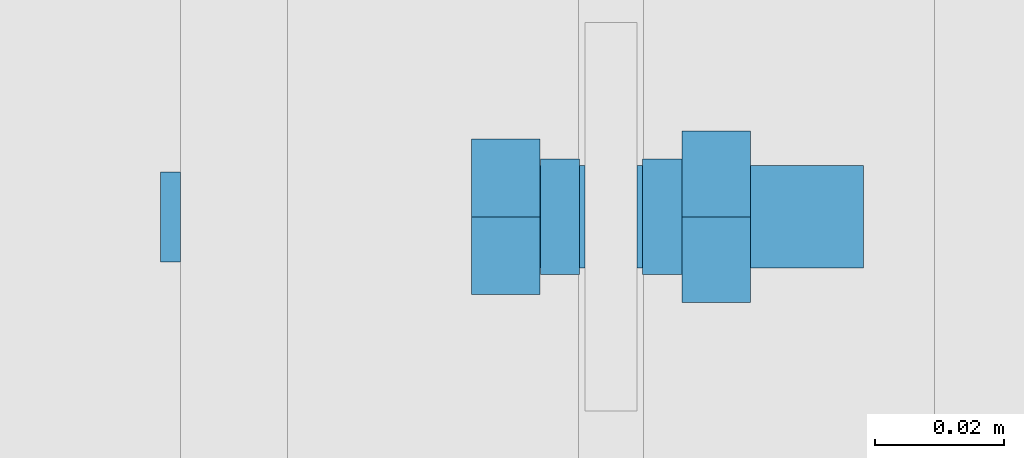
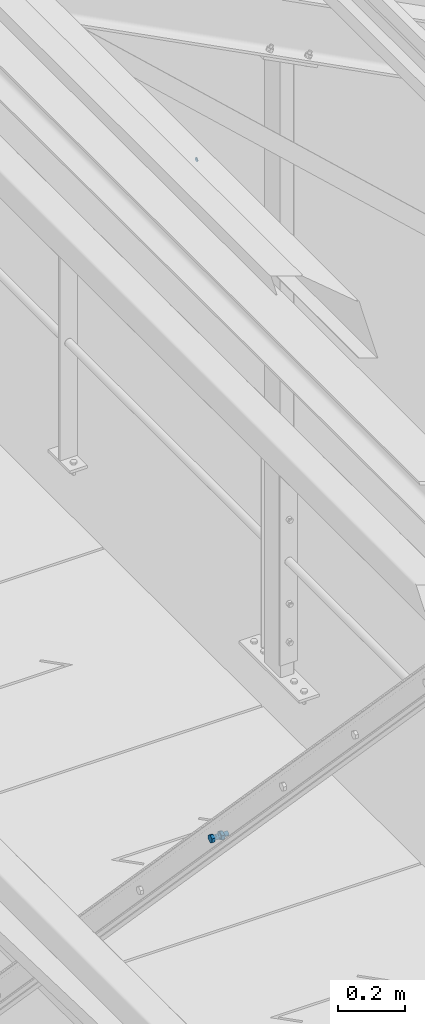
# One storey, part 265 of 362: 2 mechanical fasteners.
"""IFC2X3 building model written with IfcOpenShell, lengths in millimetres."""

from ifc_helpers import new_model, si_unit, frame, origin_with_axes, origin_2d_with_axis, place, context, subcontext, project, spatial, polyline, circle, outline, extrude, source, transform, mapped, material, type_object, element, save


model = new_model("IFC2X3")

# Units and contexts
model_context = context("Model", 3, precision=1e-05, world=origin_with_axes())
body_context = subcontext(model_context, "Body", "Model", "MODEL_VIEW")
ifc_project = project(units=[si_unit("LENGTHUNIT", "METRE", prefix="MILLI"), si_unit("AREAUNIT", "SQUARE_METRE"), si_unit("VOLUMEUNIT", "CUBIC_METRE"), si_unit("MASSUNIT", "GRAM", prefix="KILO"), si_unit("TIMEUNIT", "SECOND"), si_unit("PLANEANGLEUNIT", "RADIAN"), si_unit("SOLIDANGLEUNIT", "STERADIAN"), si_unit("THERMODYNAMICTEMPERATUREUNIT", "DEGREE_CELSIUS"), si_unit("LUMINOUSINTENSITYUNIT", "LUMEN")], contexts=[model_context])

# Site, building, storey
site_placement = place(None, origin_with_axes())
site = spatial("IfcSite", under=ifc_project, at=site_placement, Name="Undefined", CompositionType="ELEMENT")
building_placement = place(site_placement, origin_with_axes())
building = spatial("IfcBuilding", under=site, at=building_placement, Name="Undefined", CompositionType="ELEMENT")
storey_placement = place(building_placement, origin_with_axes())
storey = spatial("IfcBuildingStorey", under=building, at=storey_placement, Name="Undefined", CompositionType="ELEMENT", Elevation=0.0)

# Mechanical fasteners
ifc_material_1 = material(Name="6.8")
mechanical_fastener_type = type_object("IfcMechanicalFastenerType", Name="Bolt assembly")
shared_shape_1 = source(origin_with_axes(), body_context, "Body", "SweptSolid", [
    extrude(circle(Radius=7.0, at=origin_2d_with_axis()), frame((0.0, 0.0, 0.0), z_axis=(0.0, 1.0, 0.0), x_axis=(1.0, 0.0, 0.0)), (0.0, 0.0, 1.0), 3.1),
])
mechanical_fastener_1_placement = place(storey_placement, frame((23403.4999989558, 5700.00015768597, 11741.4098788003), z_axis=(0.0, -1.0, 0.0), x_axis=(0.0, 0.0, 1.0)))
element("IfcMechanicalFastener", 1, at=mechanical_fastener_1_placement, inside=storey, type_object=mechanical_fastener_type, material=ifc_material_1, Name="Bolt assembly", NominalDiameter=12.0, NominalLength=3.0, context=body_context, shape_type="MappedRepresentation", body=[
    mapped(shared_shape_1, transform((0.0, 0.0, 0.0))),
])
ifc_material_2 = material(Name="8.8-SB-ZINGUE")
shared_shape_2 = source(origin_with_axes(), body_context, "Body", "SweptSolid", [
    extrude(circle(Radius=9.0, at=origin_2d_with_axis()), frame((0.0, -10.9000000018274, 0.0), z_axis=(0.0, 1.0, 0.0), x_axis=(1.0, 0.0, 0.0)), (0.0, 0.0, 1.0), 6.0),
    extrude(circle(Radius=9.0, at=origin_2d_with_axis()), frame((0.0, 4.9000000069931, 0.0), z_axis=(0.0, 1.0, 0.0), x_axis=(1.0, 0.0, 0.0)), (0.0, 0.0, 1.0), 6.1),
    extrude(circle(Radius=9.0, at=origin_2d_with_axis()), frame((0.0, -3.99999923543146, 0.0), z_axis=(0.0, 1.0, 0.0), x_axis=(1.0, 0.0, 0.0)), (0.0, 0.0, 1.0), 8.0),
    extrude(outline(polyline([(13.85640646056, 0.0), (6.92820323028, 12.0000000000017), (-6.92820323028, 12.0000000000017), (-13.85640646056, 0.0), (-6.92820323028, -12.0000000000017), (6.92820323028, -12.0000000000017), (13.85640646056, 0.0)])), frame((0.0, -21.5600000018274, 0.0), z_axis=(0.0, 1.0, 0.0), x_axis=(1.0, 0.0, 0.0)), (0.0, 0.0, 1.0), 10.56),
    extrude(circle(Radius=8.0, at=origin_2d_with_axis()), frame((0.0, -11.0000000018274, 0.0), z_axis=(0.0, 1.0, 0.0), x_axis=(1.0, 0.0, 0.0)), (0.0, 0.0, 1.0), 50.0),
    extrude(outline(polyline([(15.3344231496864, 0.0), (7.6672115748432, 13.2800000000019), (-7.6672115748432, 13.2800000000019), (-15.3344231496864, 0.0), (-7.6672115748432, -13.2800000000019), (7.6672115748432, -13.2800000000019), (15.3344231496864, 0.0)])), frame((0.0, 11.0000000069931, 0.0), z_axis=(0.0, 1.0, 0.0), x_axis=(1.0, 0.0, 0.0)), (0.0, 0.0, 1.0), 10.56),
])
mechanical_fastener_2_placement = place(storey_placement, frame((23470.0, 5700.00000375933, 9243.00000255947), z_axis=(0.0, 1.0, 0.0), x_axis=(0.0, 0.0, 1.0)))
element("IfcMechanicalFastener", 2, at=mechanical_fastener_2_placement, inside=storey, type_object=mechanical_fastener_type, material=ifc_material_2, Name="Bolt assembly", NominalDiameter=16.0, NominalLength=50.0, context=body_context, shape_type="MappedRepresentation", body=[
    mapped(shared_shape_2, transform((0.0, 0.0, 0.0))),
])

save(model, "model.ifc")
